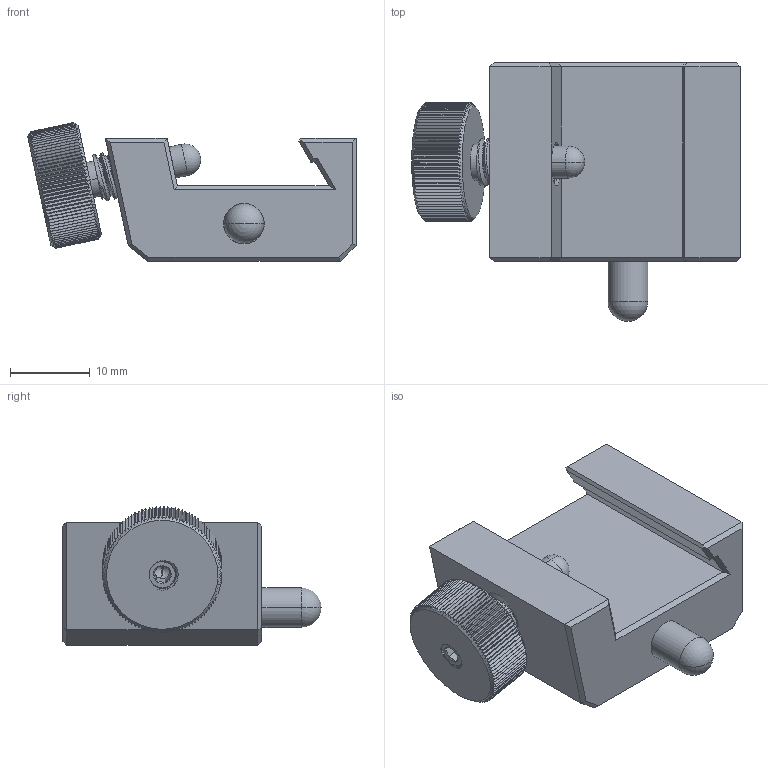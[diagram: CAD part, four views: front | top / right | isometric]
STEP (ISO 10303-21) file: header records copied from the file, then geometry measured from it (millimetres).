
FILE_DESCRIPTION((''),'2;1');
FILE_NAME('OOP-RN_ASM','2024-12-04T14:37:21',('R&D'),(''),'CREO PARAMETRIC BY PTC INC, 2021063','CREO PARAMETRIC BY PTC INC, 2021063','');
FILE_SCHEMA(('CONFIG_CONTROL_DESIGN'));
Length unit declared in the file: millimetre
Products named in the file (11): OOP-RN-A1; OOP-RN-A3; OOP-RN-A4; ISO14579-M2X6-8_8; OOP-RN-A5; M4X4_HS_7; OOP-RN-A2_ASM; OOP-RN-A6; OOP-RN-A7; M8X4_HS_7; OOP-RN_ASM
Assembly tree (10 placements, depth 3):
  OOP-RN_ASM
    OOP-RN-A1
    OOP-RN-A2_ASM
      OOP-RN-A3
      OOP-RN-A4
      ISO14579-M2X6-8_8
      OOP-RN-A5
      M4X4_HS_7
    OOP-RN-A6
    OOP-RN-A7
    M8X4_HS_7
Bounding box: 41.31 x 32.5 x 17.46 mm (x, y, z)
Volume: 9412.7 mm3; surface area: 6518.7 mm2
Topology: 9 solids, 9 shells, 629 faces, 1691 edges, 1081 vertices
Faces by surface type: plane 290, cylinder 218, bspline 81, cone 34, sphere 4, torus 2
Entity records: 37317 total; most frequent: CARTESIAN_POINT 22806, ORIENTED_EDGE 3362, DIRECTION 2425, EDGE_CURVE 1681, VERTEX_POINT 1081, AXIS2_PLACEMENT_3D 904, B_SPLINE_CURVE_WITH_KNOTS 734, EDGE_LOOP 646
